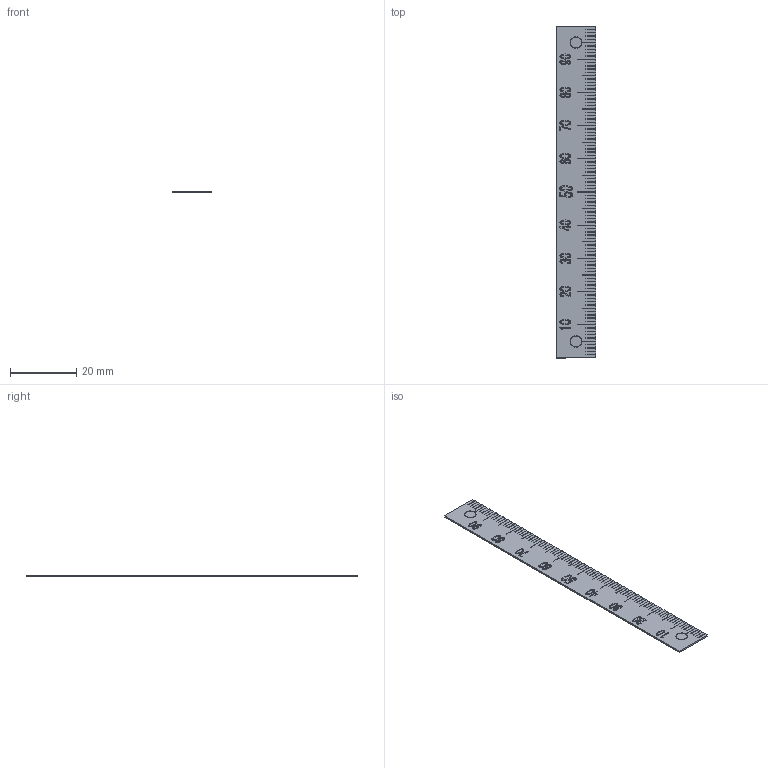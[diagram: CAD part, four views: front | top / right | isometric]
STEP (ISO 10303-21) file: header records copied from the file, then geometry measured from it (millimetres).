
FILE_DESCRIPTION (( 'STEP AP203' ), '1' );
FILE_NAME ('es1n-d100r.STEP', '2023-06-15T07:06:22', ( '' ), ( '' ), 'SwSTEP 2.0', 'SolidWorks 2021', '' );
FILE_SCHEMA (( 'CONFIG_CONTROL_DESIGN' ));
Length unit declared in the file: millimetre
Products named in the file (1): es1n-d100r
Bounding box: 12 x 100 x 0.5 mm (x, y, z)
Volume: 599.3 mm3; surface area: 2521.4 mm2
Topology: 1 solids, 1 shells, 767 faces, 2187 edges, 1458 vertices
Faces by surface type: plane 486, bspline 273, cylinder 8
Entity records: 35112 total; most frequent: CARTESIAN_POINT 16902, ORIENTED_EDGE 4374, DIRECTION 2647, EDGE_CURVE 2187, VECTOR 1625, LINE 1625, VERTEX_POINT 1458, EDGE_LOOP 803
